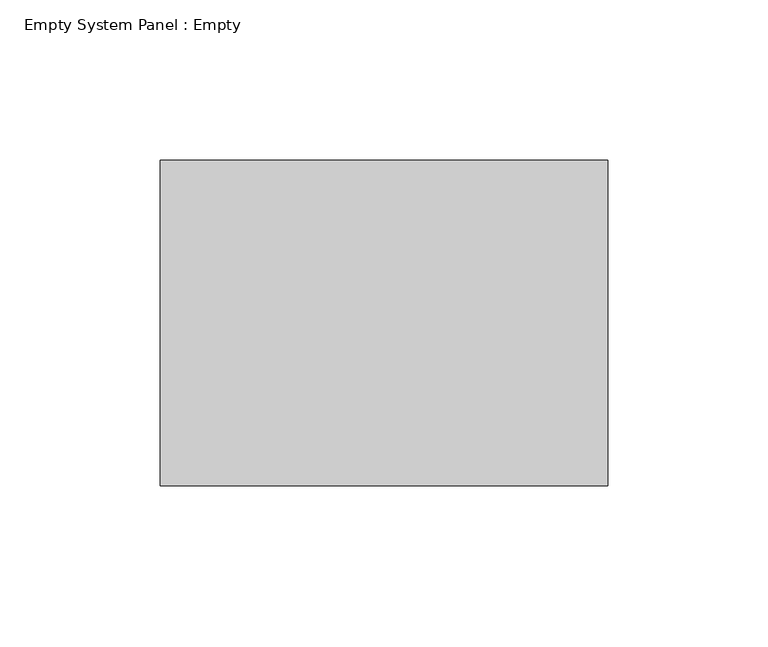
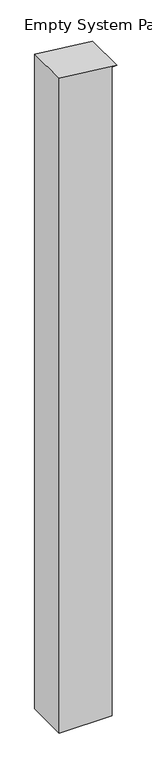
"""IFC4 building model written with IfcOpenShell, lengths in millimetres: plate geometry, Empty System Panel : Empty."""

from ifc_helpers import new_model, si_unit, frame, origin, place, context, project, spatial, polyline, outline, extrude, source, transform, mapped, element, save


def empty_system_panel_empty_91541e13(model_context):
    return source(origin(), model_context, "Body", "SweptSolid", [
        extrude(outline(polyline([(0.0, -69.85), (0.0, 57.15), (1650.4343364, 57.15), (1650.4343364, 69.85), (1666.0595264, -69.85), (0.0, -69.85)])), frame((0.0, -50.8, 0.0), z_axis=(0.0, 1.0, 0.0), x_axis=(0.0, 0.0, 1.0)), (0.0, 0.0, 1.0), 101.6),
    ])


if __name__ == "__main__":
    model = new_model("IFC4")
    model_context = context("Model", 3, world=origin())
    ifc_project = project(units=[si_unit("LENGTHUNIT", "METRE", prefix="MILLI")], contexts=[model_context])
    site = spatial("IfcSite", under=ifc_project)
    building = spatial("IfcBuilding", under=site)
    placement = place(None, origin())
    empty_system_panel_empty_shape = empty_system_panel_empty_91541e13(model_context)
    element("IfcPlate", 1, ObjectType="Empty System Panel : Empty", at=placement, inside=building, context=model_context, shape_type="MappedRepresentation", body=[
        mapped(empty_system_panel_empty_shape, transform((0.0, 0.0, 0.0), x_axis=(1.0, 0.0, 0.0), y_axis=(0.0, 1.0, 0.0), z_axis=(0.0, 0.0, 1.0))),
    ])
    save(model, "model.ifc")
